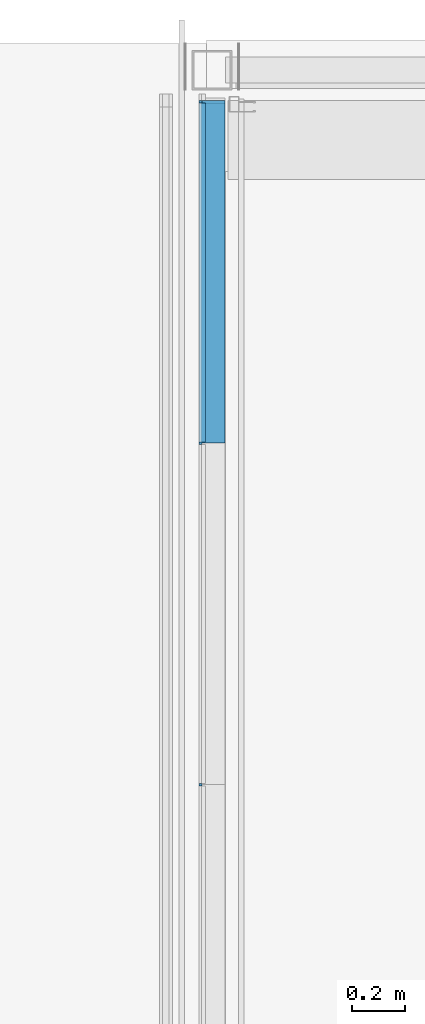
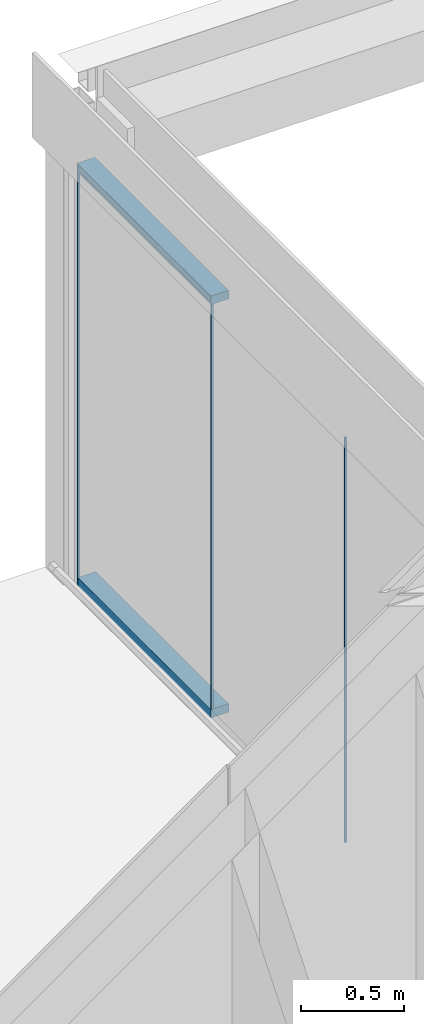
# One storey, part 5 of 37: 6 members, 1 element without a shape of its own.
"""IFC2X3 building model written with IfcOpenShell, lengths in millimetres."""

import ifcopenshell
import ifcopenshell.guid

model = None  # the IFC model being written
_history = None  # IfcOwnerHistory: only IFC2X3 demands one
_inside = {}  # id of a spatial element -> (the spatial element, [elements in it])
_under = {}  # id of a project, library or spatial element -> (it, [spatial elements below it])
_declared = {}  # id of a project -> (the project, [libraries it declares])
_typed = {}  # id of a type object -> (the type object, [elements of that type])
_made_of = {}  # id of a material, layer set ... -> (it, [elements and type objects made of it])


def new_model(schema):
    """Start an empty IFC model of exactly this schema.

    Asked for "IFC4X3", IfcOpenShell would pick the latest addendum, in which some entities
    have other attributes; the version numbers below select the first issue.
    IFC2X3 requires an IfcOwnerHistory on every rooted entity: one is made here for all.
    """
    global model, _history
    if schema == "IFC4X3":
        model = ifcopenshell.file(schema_version=(4, 3, 0, 0))
    else:
        model = ifcopenshell.file(schema=schema)
    _inside.clear()
    _under.clear()
    _declared.clear()
    _typed.clear()
    _made_of.clear()
    _history = None
    if model.schema == "IFC2X3":
        org = make("IfcOrganization", Name="unknown")
        user = make(
            "IfcPersonAndOrganization",
            ThePerson=make("IfcPerson", FamilyName="unknown"),
            TheOrganization=org,
        )
        app = make(
            "IfcApplication",
            ApplicationDeveloper=org,
            Version="unknown",
            ApplicationFullName="unknown",
            ApplicationIdentifier="unknown",
        )
        _history = make(
            "IfcOwnerHistory",
            OwningUser=user,
            OwningApplication=app,
            ChangeAction="ADDED",
            CreationDate=0,
        )
    return model


def make(cls, **values):
    """One entity of the class cls with the attributes given. An attribute that is None is left unset."""
    return model.create_entity(
        cls, **{name: value for name, value in values.items() if value is not None}
    )


def entity(cls, *values):
    """Any entity or typed value of the class cls, its attributes in the order of the schema. None: left unset."""
    e = model.create_entity(cls)
    for i, value in enumerate(values):
        if value is not None:
            e[i] = value
    return e


def rooted(cls, **values):
    """An entity with a GlobalId (a new one), such as an element, a storey or a relation."""
    return make(cls, GlobalId=ifcopenshell.guid.new(), OwnerHistory=_history, **values)


def si_unit(unit_type, name, prefix=None):
    """IfcSIUnit, for example si_unit("LENGTHUNIT", "METRE", prefix="MILLI")."""
    return make("IfcSIUnit", UnitType=unit_type, Prefix=prefix, Name=name)


def converted_unit(unit_type, name, factor, base, dimensions=None, offset=None):
    """IfcConversionBasedUnit, such as the inch: factor (a typed value) times the base unit."""
    return make(
        "IfcConversionBasedUnit"
        if offset is None
        else "IfcConversionBasedUnitWithOffset",
        ConversionOffset=offset,
        Dimensions=None
        if dimensions is None
        else entity("IfcDimensionalExponents", *dimensions),
        UnitType=unit_type,
        Name=name,
        ConversionFactor=make(
            "IfcMeasureWithUnit", ValueComponent=factor, UnitComponent=base
        ),
    )


def derived_unit(unit_type, elements):
    """IfcDerivedUnit: a product of units, each with its exponent."""
    return make(
        "IfcDerivedUnit",
        Elements=[
            make("IfcDerivedUnitElement", Unit=unit, Exponent=power)
            for unit, power in elements
        ],
        UnitType=unit_type,
    )


def assignment(units):
    """IfcUnitAssignment: the units of a project."""
    return None if units is None else make("IfcUnitAssignment", Units=units)


def point(xyz):
    """IfcCartesianPoint."""
    return None if xyz is None else make("IfcCartesianPoint", Coordinates=xyz)


def direction(xyz):
    """IfcDirection."""
    return None if xyz is None else make("IfcDirection", DirectionRatios=xyz)


def frame(location, z_axis=None, x_axis=None):
    """IfcAxis2Placement3D, a coordinate frame: its origin and axes. An axis left out is left unset."""
    return make(
        "IfcAxis2Placement3D",
        Location=point(location),
        Axis=direction(z_axis),
        RefDirection=direction(x_axis),
    )


def frame_2d(location, x_axis=None):
    """IfcAxis2Placement2D, a coordinate frame in the plane: its origin and x axis."""
    return make(
        "IfcAxis2Placement2D", Location=point(location), RefDirection=direction(x_axis)
    )


def origin():
    """The frame at (0, 0, 0) with its axes left unset."""
    return frame((0.0, 0.0, 0.0))


def origin_with_axes():
    """The frame at (0, 0, 0) with the z axis (0, 0, 1) and the x axis (1, 0, 0) written out."""
    return frame((0.0, 0.0, 0.0), z_axis=(0.0, 0.0, 1.0), x_axis=(1.0, 0.0, 0.0))


def origin_2d_with_axis():
    """The frame at (0, 0) in the plane with the x axis (1, 0) written out."""
    return frame_2d((0.0, 0.0), x_axis=(1.0, 0.0))


def place(relative_to, where):
    """IfcLocalPlacement: puts the frame where relative to a parent placement (None: the world)."""
    return make(
        "IfcLocalPlacement", PlacementRelTo=relative_to, RelativePlacement=where
    )


def context(
    kind, dimensions, precision=None, world=None, true_north=None, identifier=None
):
    """IfcGeometricRepresentationContext, for example the 3D "Model" context."""
    return make(
        "IfcGeometricRepresentationContext",
        ContextIdentifier=identifier,
        ContextType=kind,
        CoordinateSpaceDimension=dimensions,
        Precision=precision,
        WorldCoordinateSystem=world,
        TrueNorth=true_north,
    )


def subcontext(parent, identifier, kind, view, scale=None):
    """IfcGeometricRepresentationSubContext, for example "Body" below "Model"."""
    return make(
        "IfcGeometricRepresentationSubContext",
        ContextIdentifier=identifier,
        ContextType=kind,
        ParentContext=parent,
        TargetScale=scale,
        TargetView=view,
    )


def project(units=None, contexts=None):
    """IfcProject with its units and contexts."""
    return rooted(
        "IfcProject",
        Name="project",
        RepresentationContexts=contexts,
        UnitsInContext=assignment(units),
    )


def spatial(cls, under=None, at=None, **own):
    """A site, building, storey or space (cls), placed at a placement, below another one or the project."""
    s = rooted(cls, ObjectPlacement=at, **own)
    if under is not None:
        _under.setdefault(under.id(), (under, []))[1].append(s)
    return s


def profile(cls, at=None, kind="AREA", **sizes):
    """A parametric profile (cls). Its sizes go by their IFC names, for example OverallWidth=200.0."""
    return make(cls, ProfileType=kind, Position=at, **sizes)


def rectangle(**sizes):
    """IfcRectangleProfileDef."""
    return profile("IfcRectangleProfileDef", **sizes)


def extrude(swept, where, along, depth):
    """IfcExtrudedAreaSolid: the profile swept, set in the frame where, extruded along a direction by depth."""
    return make(
        "IfcExtrudedAreaSolid",
        SweptArea=swept,
        Position=where,
        ExtrudedDirection=direction(along),
        Depth=depth,
    )


def shape(context_of_items, identifier, shape_type, items):
    """IfcShapeRepresentation: the items that make up one representation, for example the "Body"."""
    return make(
        "IfcShapeRepresentation",
        ContextOfItems=context_of_items,
        RepresentationIdentifier=identifier,
        RepresentationType=shape_type,
        Items=items,
    )


def source(mapping_origin, context_of_items, identifier, shape_type, items):
    """IfcRepresentationMap: a shape defined once, which mapped items show again and again."""
    return make(
        "IfcRepresentationMap",
        MappingOrigin=mapping_origin,
        MappedRepresentation=shape(context_of_items, identifier, shape_type, items),
    )


def transform(
    local_origin,
    x_axis=None,
    y_axis=None,
    z_axis=None,
    scale=None,
    scale2=None,
    scale3=None,
    uniform=True,
):
    """IfcCartesianTransformationOperator3D, or its non-uniform kind. x_axis, y_axis, z_axis: its Axis1, 2, 3."""
    if uniform:
        return make(
            "IfcCartesianTransformationOperator3D",
            Axis1=direction(x_axis),
            Axis2=direction(y_axis),
            LocalOrigin=point(local_origin),
            Scale=scale,
            Axis3=direction(z_axis),
        )
    return make(
        "IfcCartesianTransformationOperator3DnonUniform",
        Axis1=direction(x_axis),
        Axis2=direction(y_axis),
        LocalOrigin=point(local_origin),
        Scale=scale,
        Axis3=direction(z_axis),
        Scale2=scale2,
        Scale3=scale3,
    )


def mapped(mapping_source, mapping_target):
    """IfcMappedItem: shows the shape of a source again, moved by a transform."""
    return make(
        "IfcMappedItem", MappingSource=mapping_source, MappingTarget=mapping_target
    )


def material(Name=None, Category=None):
    """IfcMaterial."""
    return make("IfcMaterial", Name=Name, Category=Category)


def made_of(thing, what):
    """Note that an element or type object is made of a material, layer set ...; save() writes the relation."""
    if what is not None:
        _made_of.setdefault(what.id(), (what, []))[1].append(thing)
    return thing


def type_object(cls, material=None, **own):
    """A type object (cls), such as IfcWallType, which elements share."""
    return made_of(rooted(cls, **own), material)


def element(
    cls,
    number,
    at=None,
    inside=None,
    cuts=None,
    type_object=None,
    material=None,
    context=None,
    identifier="Body",
    shape_type=None,
    held_by="IfcProductDefinitionShape",
    body=None,
    shapes=None,
    **own,
):
    """One element of the class cls, such as IfcWall. Its Tag is "e" and its number.

    at: its placement. inside: the storey or other place that contains it. cuts: it is an
    opening in that element (IfcRelVoidsElement). A single representation is given by context,
    identifier, shape_type and body (its items); several are given by shapes. held_by: the class
    of the entity that holds the representations. save() writes the other relations.
    """
    e = rooted(cls, Tag="e%d" % number, ObjectPlacement=at, **own)
    if body is not None:
        shapes = [shape(context, identifier, shape_type, body)]
    if shapes is not None:
        e.Representation = make(held_by, Representations=shapes)
    if inside is not None:
        _inside.setdefault(inside.id(), (inside, []))[1].append(e)
    if cuts is not None:
        rooted(
            "IfcRelVoidsElement", RelatingBuildingElement=cuts, RelatedOpeningElement=e
        )
    if type_object is not None:
        _typed.setdefault(type_object.id(), (type_object, []))[1].append(e)
    return made_of(e, material)


def aggregate(whole, parts):
    """IfcRelAggregates: a whole, such as a stair, and the parts it consists of."""
    return rooted("IfcRelAggregates", RelatingObject=whole, RelatedObjects=parts)


def save(model, path):
    """Write the relations noted so far, then the file.

    IfcRelAggregates (storeys below a building ...), IfcRelContainedInSpatialStructure (elements
    in a storey), IfcRelDefinesByType, IfcRelAssociatesMaterial and IfcRelDeclares: one each for
    every whole, place, type object, material and project.
    """
    for whole, parts in _under.values():
        aggregate(whole, parts)
    for where, things in _inside.values():
        rooted(
            "IfcRelContainedInSpatialStructure",
            RelatedElements=things,
            RelatingStructure=where,
        )
    for kind, things in _typed.values():
        rooted("IfcRelDefinesByType", RelatedObjects=things, RelatingType=kind)
    for what, things in _made_of.values():
        rooted("IfcRelAssociatesMaterial", RelatedObjects=things, RelatingMaterial=what)
    for by, libraries in _declared.values():
        rooted("IfcRelDeclares", RelatingContext=by, RelatedDefinitions=libraries)
    model.write(path)


model = new_model("IFC2X3")

# Units and contexts
model_context = context("Model", 3, precision=0.01, world=frame((0.0, 4.29681676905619e-09, 0.0)), true_north=direction((4.01073788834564e-13, 1.0)))
plan_context = context("Plan", 3, precision=0.01, world=frame((0.0, 4.29681676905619e-09, 0.0)), true_north=direction((4.01073788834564e-13, 1.0)))
body_context = subcontext(model_context, "Body", "Model", "MODEL_VIEW")
ifc_project = project(units=[converted_unit("PLANEANGLEUNIT", "DEGREE", entity("IfcPositiveLengthMeasure", 0.0174532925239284), si_unit("PLANEANGLEUNIT", "RADIAN"), dimensions=[0, 0, 0, 0, 0, 0, 0]), si_unit("AREAUNIT", "SQUARE_METRE"), si_unit("LENGTHUNIT", "METRE", prefix="MILLI"), si_unit("MASSUNIT", "GRAM", prefix="KILO"), si_unit("POWERUNIT", "WATT"), si_unit("PRESSUREUNIT", "PASCAL"), si_unit("FORCEUNIT", "NEWTON", prefix="KILO"), si_unit("ELECTRICVOLTAGEUNIT", "VOLT"), si_unit("ELECTRICCURRENTUNIT", "AMPERE"), si_unit("THERMODYNAMICTEMPERATUREUNIT", "DEGREE_CELSIUS"), si_unit("TIMEUNIT", "SECOND"), si_unit("VOLUMEUNIT", "CUBIC_METRE"), derived_unit("LINEARVELOCITYUNIT", [(si_unit("LENGTHUNIT", "METRE"), 1), (si_unit("TIMEUNIT", "SECOND"), -1)]), derived_unit("VOLUMETRICFLOWRATEUNIT", [(si_unit("VOLUMEUNIT", "CUBIC_METRE"), 1), (si_unit("TIMEUNIT", "SECOND"), -1)]), derived_unit("THERMALTRANSMITTANCEUNIT", [(si_unit("POWERUNIT", "WATT"), 1), (si_unit("THERMODYNAMICTEMPERATUREUNIT", "KELVIN"), -1), (si_unit("AREAUNIT", "SQUARE_METRE"), -1)]), derived_unit("SOUNDPRESSUREUNIT", [(si_unit("PRESSUREUNIT", "PASCAL"), 1)])], contexts=[model_context, plan_context])

# Site, building, storey
site_placement = place(None, origin_with_axes())
site = spatial("IfcSite", under=ifc_project, at=site_placement, Name="ENGM", CompositionType="ELEMENT")
building_placement = place(site_placement, origin_with_axes())
building = spatial("IfcBuilding", under=site, at=building_placement, Name="TS", CompositionType="ELEMENT")
storey_placement = place(building_placement, frame((0.0, 0.0, 210900.0), z_axis=(0.0, 0.0, 1.0), x_axis=(1.0, 0.0, 0.0)))
storey = spatial("IfcBuildingStorey", under=building, at=storey_placement, Name="Nivå F", CompositionType="ELEMENT", Elevation=210900.0)

# Curtain wall, members
curtain_wall_type = type_object("IfcCurtainWallType", Name="Curtain Wall:A242 - IGV - Glass - 10 mm", PredefinedType="NOTDEFINED")
curtain_wall_placement = place(storey_placement, frame((0.0, 0.0, -210900.0), z_axis=(0.0, 0.0, 1.0), x_axis=(1.0, 0.0, 0.0)))
curtain_wall = element("IfcCurtainWall", 1, at=curtain_wall_placement, inside=storey, type_object=curtain_wall_type, Name="Curtain Wall:A242 - IGV - Glass - 10 mm", ObjectType="Curtain Wall:A242 - IGV - Glass - 10 mm")
ifc_material_1 = material(Name="Metal - Aluminium")
member_type_1 = type_object("IfcMemberType", Name="Rectangular Mullion:A233 - Sprosse rektangulær - 50 x 100 mm", PredefinedType="MULLION", material=ifc_material_1)
shared_shape_1 = source(origin(), body_context, "Body", "SweptSolid", [
    extrude(rectangle(XDim=50.0, YDim=100.0, at=origin_2d_with_axis()), frame((-25.0, 50.0, -1291.66666666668), z_axis=(0.0, 0.0, 1.0), x_axis=(-1.0, 0.0, 0.0)), (0.0, 0.0, 1.0), 1291.66666666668),
])
member_1_placement = place(curtain_wall_placement, frame((524920.000000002, 460383.333333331, 210905.0), z_axis=(0.0, -1.0, 0.0), x_axis=(0.0, 0.0, -1.0)))
member_1 = element("IfcMember", 2, at=member_1_placement, type_object=member_type_1, material=ifc_material_1, Name="Rectangular Mullion:A233 - Sprosse rektangulær - 50 x 100 mm", ObjectType="Rectangular Mullion:A233 - Sprosse rektangulær - 50 x 100 mm", context=body_context, shape_type="MappedRepresentation", body=[
    mapped(shared_shape_1, transform((0.0, 0.0, 0.0), scale=1.0)),
])
ifc_material_2 = material(Name="Fuge l")
member_type_2 = type_object("IfcMemberType", Name="Rectangular Mullion:A233 - Fuge 10 mm", PredefinedType="MULLION", material=ifc_material_2)
shared_shape_2 = source(origin(), body_context, "Body", "SweptSolid", [
    extrude(rectangle(XDim=11.9999999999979, YDim=10.0, at=origin_2d_with_axis()), frame((0.0, 6.0, -2450.0), z_axis=(0.0, 0.0, 1.0), x_axis=(0.0, 1.0, 0.0)), (0.0, 0.0, 1.0), 2450.00000000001),
])
member_2_placement = place(curtain_wall_placement, frame((524920.000000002, 461679.999999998, 210905.0), z_axis=(0.0, 0.0, -1.0), x_axis=(0.0, 1.0, 0.0)))
member_2 = element("IfcMember", 3, at=member_2_placement, type_object=member_type_2, material=ifc_material_2, Name="Rectangular Mullion:A233 - Fuge 10 mm", ObjectType="Rectangular Mullion:A233 - Fuge 10 mm", context=body_context, shape_type="MappedRepresentation", body=[
    mapped(shared_shape_2, transform((0.0, 0.0, 0.0), scale=1.0)),
])
member_type_3 = type_object("IfcMemberType", Name="Rectangular Mullion:A233 - Sprosse rektangulær - 50 x 100 mm", PredefinedType="MULLION", material=ifc_material_1)
shared_shape_3 = source(origin(), body_context, "Body", "SweptSolid", [
    extrude(rectangle(XDim=50.0, YDim=100.0, at=origin_2d_with_axis()), frame((0.0, 50.0, -1301.6666666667), z_axis=(0.0, 0.0, 1.0), x_axis=(-1.0, 0.0, 0.0)), (0.0, 0.0, 1.0), 1301.66666666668),
])
member_3_placement = place(curtain_wall_placement, frame((524920.000000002, 461684.999999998, 213380.0), z_axis=(0.0, 1.0, 0.0), x_axis=(0.0, 0.0, 1.0)))
member_3 = element("IfcMember", 4, at=member_3_placement, type_object=member_type_3, material=ifc_material_1, Name="Rectangular Mullion:A233 - Sprosse rektangulær - 50 x 100 mm", ObjectType="Rectangular Mullion:A233 - Sprosse rektangulær - 50 x 100 mm", context=body_context, shape_type="MappedRepresentation", body=[
    mapped(shared_shape_3, transform((0.0, 0.0, 0.0), scale=1.0)),
])
ifc_material_3 = material(Name="T2 - Rubber")
member_type_4 = type_object("IfcMemberType", Name="Rectangular Mullion:A233 - Sprosse - 00(post)+25(fuge inkl glass) x 30 mm", PredefinedType="MULLION", material=ifc_material_3)
shared_shape_4 = source(origin(), body_context, "Body", "SweptSolid", [
    extrude(rectangle(XDim=30.0, YDim=25.0, at=origin_2d_with_axis()), frame((-15.0, 12.5, -1286.66666666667), z_axis=(0.0, 0.0, 1.0), x_axis=(-1.0, 0.0, 0.0)), (0.0, 0.0, 1.0), 1286.66666666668),
])
member_4_placement = place(curtain_wall_placement, frame((524920.000000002, 461674.999999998, 213400.0), z_axis=(0.0, 1.0, 0.0), x_axis=(0.0, 0.0, 1.0)))
member_4 = element("IfcMember", 5, at=member_4_placement, type_object=member_type_4, material=ifc_material_3, Name="Rectangular Mullion:A233 - Sprosse - 00(post)+25(fuge inkl glass) x 30 mm", ObjectType="Rectangular Mullion:A233 - Sprosse - 00(post)+25(fuge inkl glass) x 30 mm", context=body_context, shape_type="MappedRepresentation", body=[
    mapped(shared_shape_4, transform((0.0, 0.0, 0.0), scale=1.0)),
])
member_type_5 = type_object("IfcMemberType", Name="Rectangular Mullion:A233 - Fuge 10 mm", PredefinedType="MULLION", material=ifc_material_2)
shared_shape_5 = source(origin(), body_context, "Body", "SweptSolid", [
    extrude(rectangle(XDim=11.9999999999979, YDim=10.0, at=origin_2d_with_axis()), frame((0.0, 6.0, -2400.0), z_axis=(0.0, 0.0, 1.0), x_axis=(0.0, 1.0, 0.0)), (0.0, 0.0, 1.0), 2400.00000000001),
])
member_5_placement = place(curtain_wall_placement, frame((524920.000000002, 460383.333333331, 210955.0), z_axis=(0.0, 0.0, -1.0), x_axis=(0.0, 1.0, 0.0)))
member_5 = element("IfcMember", 6, at=member_5_placement, type_object=member_type_5, material=ifc_material_2, Name="Rectangular Mullion:A233 - Fuge 10 mm", ObjectType="Rectangular Mullion:A233 - Fuge 10 mm", context=body_context, shape_type="MappedRepresentation", body=[
    mapped(shared_shape_5, transform((0.0, 0.0, 0.0), scale=1.0)),
])
member_6_placement = place(curtain_wall_placement, frame((524920.000000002, 459086.666666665, 210955.0), z_axis=(0.0, 0.0, -1.0), x_axis=(0.0, 1.0, 0.0)))
member_6 = element("IfcMember", 7, at=member_6_placement, type_object=member_type_5, material=ifc_material_2, Name="Rectangular Mullion:A233 - Fuge 10 mm", ObjectType="Rectangular Mullion:A233 - Fuge 10 mm", context=body_context, shape_type="MappedRepresentation", body=[
    mapped(shared_shape_5, transform((0.0, 0.0, 0.0), scale=1.0)),
])
aggregate(curtain_wall, [member_1, member_2, member_3, member_4, member_5, member_6])

save(model, "model.ifc")
